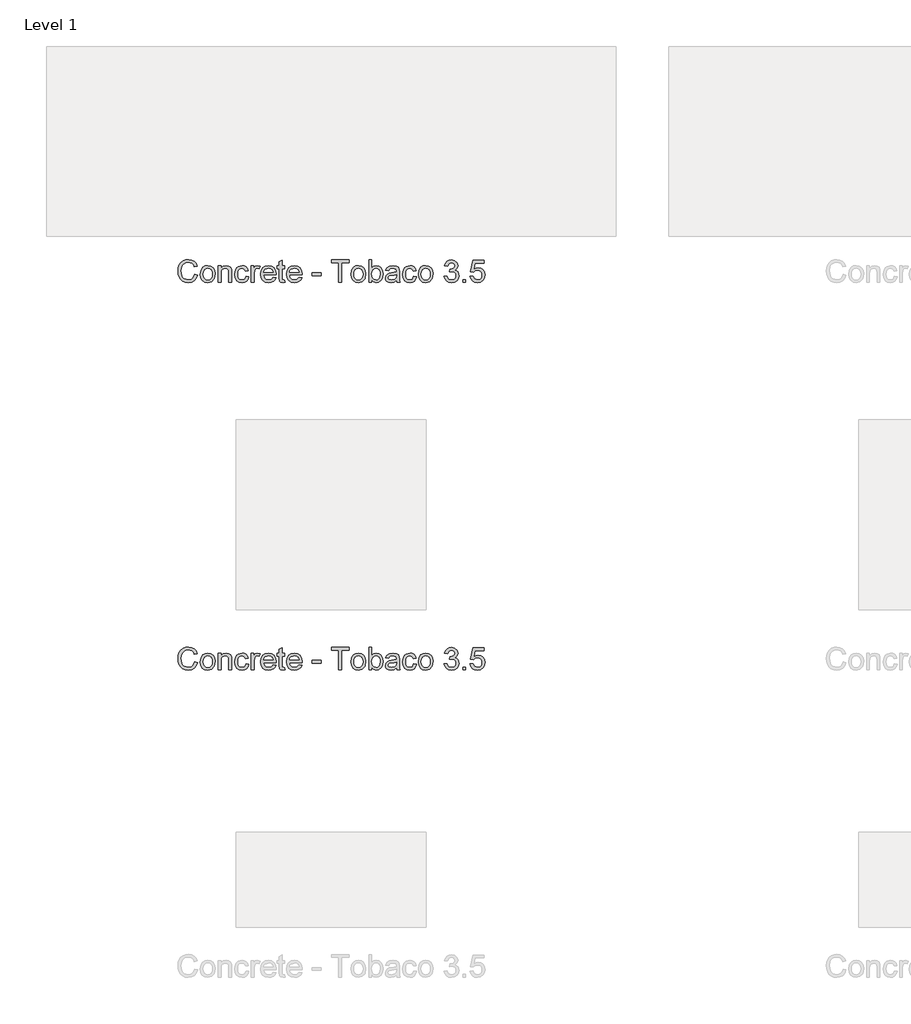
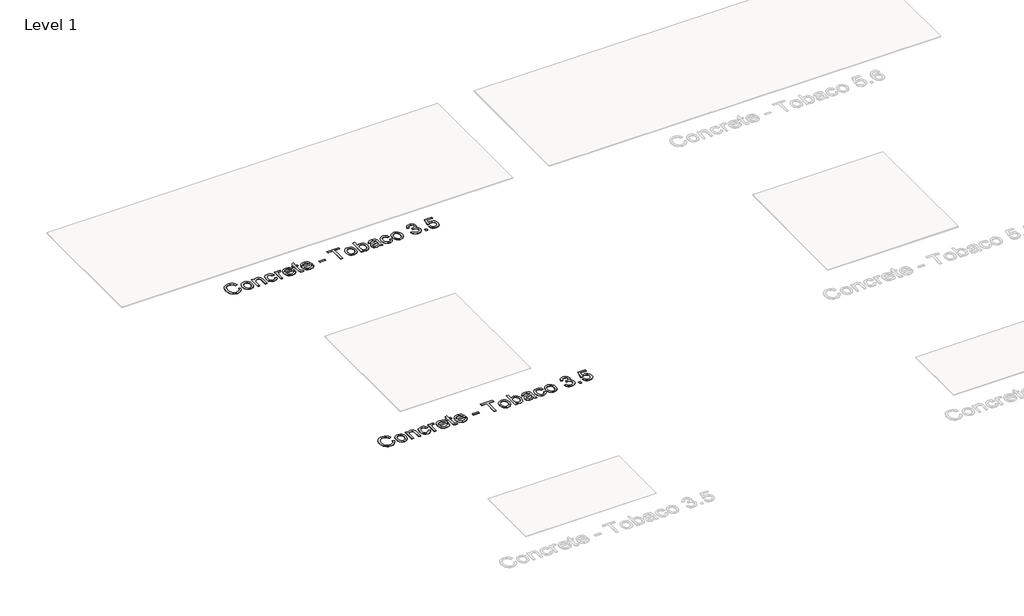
# One storey, part 53 of 80: 2 proxies.
"""IFC4 building model written with IfcOpenShell, lengths in millimetres."""

from ifc_helpers import new_model, si_unit, origin, origin_with_axes, place, context, project, spatial, polyline, outline, extrude, element, save

model = new_model("IFC4")

# Units and contexts
model_context = context("Model", 3, world=origin())
ifc_project = project(units=[si_unit("LENGTHUNIT", "METRE", prefix="MILLI")], contexts=[model_context])

# Site, building, storey
site = spatial("IfcSite", under=ifc_project)
building = spatial("IfcBuilding", under=site)
storey = spatial("IfcBuildingStorey", under=building, Name="Level 1", Elevation=0.0)

# Proxies
placement = place(None, origin())
element("IfcBuildingElementProxy", 1, Name="24\" Arial", ObjectType="24\" Arial", at=placement, inside=storey, context=model_context, shape_type="SweptSolid", body=[
    extrude(outline(polyline([(-11124.6145694, 10790.728562), (-11109.8453387, 10786.9208697), (-11116.6602425, 10769.7105332), (-11127.3549541, 10757.1372159), (-11141.403031, 10749.4461101), (-11158.278031, 10746.8824082), (-11175.4090406, 10748.822312), (-11189.0136079, 10754.6420236), (-11199.4414925, 10764.1396197), (-11207.0424541, 10777.1131774), (-11211.6830791, 10792.3655813), (-11213.2299541, 10808.6997159), (-11211.481156, 10825.9280813), (-11206.2347617, 10840.8054851), (-11197.7648098, 10852.8595717), (-11186.3453387, 10861.6179851), (-11172.8020694, 10866.9509178), (-11157.9607233, 10868.728562), (-11141.7672137, 10866.4280813), (-11128.3789925, 10859.526639), (-11118.2143291, 10848.4497159), (-11111.6914925, 10833.6227928), (-11126.4607233, 10830.103562), (-11131.5809156, 10840.8739947), (-11138.5761079, 10848.2622159), (-11147.5328387, 10852.5350524), (-11158.5376464, 10853.9593313), (-11171.2227425, 10852.3800044), (-11181.6434156, 10847.6420236), (-11189.5508675, 10840.2429851), (-11194.6963002, 10830.6804851), (-11198.4607233, 10808.728562), (-11194.0039925, 10783.2862544), (-11188.3068771, 10773.7850524), (-11180.1289925, 10767.0314467), (-11159.7491848, 10761.651639), (-11147.4210598, 10763.4833697), (-11137.1482233, 10768.978562), (-11129.3922137, 10778.0795236), (-11124.6145694, 10790.728562)])), origin_with_axes(), (0.0, 0.0, 1.0), 2.0),
    extrude(outline(polyline([(-11095.0761079, 10792.1131774), (-11091.8813964, 10813.0338505), (-11082.2972617, 10827.7381774), (-11070.4559156, 10834.9425044), (-11056.278031, 10837.3439467), (-11040.762406, 10834.4196678), (-11028.3693771, 10825.6468313), (-11020.2455791, 10811.7177447), (-11017.5376464, 10793.3247159), (-11022.3261079, 10767.0458697), (-11036.2732233, 10752.1756774), (-11056.278031, 10746.8824082), (-11071.981156, 10749.7958697), (-11084.3597617, 10758.5362544), (-11092.3970214, 10772.7574082), (-11095.0761079, 10792.1131774)]), holes=[polyline([(-11080.3068771, 10792.1420236), (-11078.5977425, 10778.775437), (-11073.4703387, 10769.2526005), (-11065.7539925, 10763.5518794), (-11056.278031, 10761.651639), (-11046.8453387, 10763.5626967), (-11039.1434156, 10769.2958697), (-11034.0160117, 10778.9449082), (-11032.3068771, 10792.603562), (-11034.0268291, 10805.5807255), (-11039.1866848, 10814.9737544), (-11046.8994252, 10820.6744755), (-11056.278031, 10822.5747159), (-11065.7539925, 10820.681687), (-11073.4703387, 10815.0026005), (-11078.5977425, 10805.5013986), (-11080.3068771, 10792.1420236)])]), origin_with_axes(), (0.0, 0.0, 1.0), 2.0),
    extrude(outline(polyline([(-11000.9222617, 10748.728562), (-11000.9222617, 10835.4977928), (-10986.153031, 10835.4977928), (-10986.153031, 10823.3824082), (-10974.8597617, 10833.853562), (-10959.4414925, 10837.3439467), (-10945.4943771, 10834.5314467), (-10935.9751464, 10827.1468313), (-10931.5472617, 10816.2862544), (-10930.7684156, 10802.0074082), (-10930.7684156, 10748.728562), (-10945.5376464, 10748.728562), (-10945.5376464, 10800.0170236), (-10947.2395694, 10813.0843313), (-10953.2539925, 10819.9929851), (-10963.3934156, 10822.5747159), (-10979.4174541, 10816.776639), (-10984.4691367, 10808.3751967), (-10986.153031, 10794.7670236), (-10986.153031, 10748.728562), (-11000.9222617, 10748.728562)])), origin_with_axes(), (0.0, 0.0, 1.0), 2.0),
    extrude(outline(polyline([(-10855.0761079, 10780.1131774), (-10840.3068771, 10778.2670236), (-10844.4246656, 10765.1312063), (-10852.1626464, 10755.2045236), (-10862.7924541, 10748.962937), (-10875.5857233, 10746.8824082), (-10891.2960598, 10749.7850524), (-10903.5809156, 10758.4929851), (-10911.5100021, 10772.6239947), (-10914.153031, 10791.7958697), (-10909.6386079, 10816.3295236), (-10903.9414925, 10825.5278409), (-10895.8789925, 10832.0939467), (-10875.7876464, 10837.3439467), (-10863.3080791, 10835.541062), (-10853.3309156, 10830.1324082), (-10846.1734637, 10821.4064467), (-10842.153031, 10809.651639), (-10856.9222617, 10807.8054851), (-10863.7732233, 10818.8679851), (-10875.6722617, 10822.5747159), (-10885.2167329, 10820.7501967), (-10892.7924541, 10815.276639), (-10897.7359637, 10805.8583697), (-10899.3838002, 10792.1997159), (-10897.7720214, 10778.3571678), (-10892.9366848, 10768.9064467), (-10885.4979829, 10763.4653409), (-10876.0761079, 10761.651639), (-10862.1578387, 10766.1804851), (-10855.0761079, 10780.1131774)])), origin_with_axes(), (0.0, 0.0, 1.0), 2.0),
    extrude(outline(polyline([(-10827.3838002, 10748.728562), (-10827.3838002, 10835.4977928), (-10814.4607233, 10835.4977928), (-10814.4607233, 10822.6612544), (-10805.2876464, 10834.4881774), (-10796.0568771, 10837.3439467), (-10781.2299541, 10832.7862544), (-10786.1626464, 10819.5458697), (-10796.5472617, 10822.5747159), (-10804.8982233, 10819.6612544), (-10810.2203387, 10811.5843313), (-10812.6145694, 10794.3343313), (-10812.6145694, 10748.728562), (-10827.3838002, 10748.728562)])), origin_with_axes(), (0.0, 0.0, 1.0), 2.0),
    extrude(outline(polyline([(-10711.2491848, 10774.5747159), (-10696.7684156, 10772.728562), (-10701.9859637, 10761.8175044), (-10710.3116848, 10753.6612544), (-10721.5580791, 10748.5771197), (-10735.5376464, 10746.8824082), (-10752.8669733, 10749.806687), (-10766.2011079, 10758.5795236), (-10774.7035117, 10772.6312063), (-10777.5376464, 10791.3920236), (-10774.6746656, 10810.7838505), (-10766.0857233, 10825.2862544), (-10752.9318771, 10834.3295236), (-10736.3741848, 10837.3439467), (-10720.3321175, 10834.3367351), (-10707.5136079, 10825.3151005), (-10699.1085598, 10810.8415428), (-10696.3068771, 10791.478562), (-10696.3934156, 10787.4977928), (-10762.7684156, 10787.4977928), (-10760.2119252, 10776.4425044), (-10754.2732233, 10768.3151005), (-10745.7023098, 10763.3175044), (-10735.2491848, 10761.651639), (-10720.7684156, 10764.7381774), (-10711.2491848, 10774.5747159)]), holes=[polyline([(-10762.7684156, 10802.2670236), (-10711.0761079, 10802.2670236), (-10716.9895694, 10815.651639), (-10725.6001464, 10820.8439467), (-10736.4318771, 10822.5747159), (-10754.6193771, 10817.0506774), (-10760.3417329, 10810.5927447), (-10762.7684156, 10802.2670236)])]), origin_with_axes(), (0.0, 0.0, 1.0), 2.0),
    extrude(outline(polyline([(-10650.153031, 10761.0458697), (-10648.3068771, 10748.2958697), (-10659.3549541, 10746.8824082), (-10671.7299541, 10749.3343313), (-10677.903031, 10755.7670236), (-10679.6914925, 10772.526639), (-10679.6914925, 10820.728562), (-10690.7684156, 10820.728562), (-10690.7684156, 10835.4977928), (-10679.6914925, 10835.4977928), (-10679.6914925, 10856.5843313), (-10664.9222617, 10865.2670236), (-10664.9222617, 10835.4977928), (-10650.153031, 10835.4977928), (-10650.153031, 10820.728562), (-10664.9222617, 10820.728562), (-10664.9222617, 10772.9593313), (-10664.1434156, 10765.3439467), (-10661.6193771, 10762.6468313), (-10656.5857233, 10761.651639), (-10650.153031, 10761.0458697)])), origin_with_axes(), (0.0, 0.0, 1.0), 2.0),
    extrude(outline(polyline([(-10574.6338002, 10774.5747159), (-10560.153031, 10772.728562), (-10565.3705791, 10761.8175044), (-10573.6963002, 10753.6612544), (-10584.9426944, 10748.5771197), (-10598.9222617, 10746.8824082), (-10616.2515887, 10749.806687), (-10629.5857233, 10758.5795236), (-10638.0881271, 10772.6312063), (-10640.9222617, 10791.3920236), (-10638.059281, 10810.7838505), (-10629.4703387, 10825.2862544), (-10616.3164925, 10834.3295236), (-10599.7588002, 10837.3439467), (-10583.7167329, 10834.3367351), (-10570.8982233, 10825.3151005), (-10562.4931752, 10810.8415428), (-10559.6914925, 10791.478562), (-10559.778031, 10787.4977928), (-10626.153031, 10787.4977928), (-10623.5965406, 10776.4425044), (-10617.6578387, 10768.3151005), (-10609.0869252, 10763.3175044), (-10598.6338002, 10761.651639), (-10584.153031, 10764.7381774), (-10574.6338002, 10774.5747159)]), holes=[polyline([(-10626.153031, 10802.2670236), (-10574.4607233, 10802.2670236), (-10580.3741848, 10815.651639), (-10588.9847617, 10820.8439467), (-10599.8164925, 10822.5747159), (-10618.0039925, 10817.0506774), (-10623.7263483, 10810.5927447), (-10626.153031, 10802.2670236)])]), origin_with_axes(), (0.0, 0.0, 1.0), 2.0),
    extrude(outline(polyline([(-10506.153031, 10783.8054851), (-10506.153031, 10798.5747159), (-10459.9991848, 10798.5747159), (-10459.9991848, 10783.8054851), (-10506.153031, 10783.8054851)])), origin_with_axes(), (0.0, 0.0, 1.0), 2.0),
    extrude(outline(polyline([(-10365.8453387, 10748.728562), (-10365.8453387, 10852.1131774), (-10404.6145694, 10852.1131774), (-10404.6145694, 10866.8824082), (-10312.3068771, 10866.8824082), (-10312.3068771, 10852.1131774), (-10351.0761079, 10852.1131774), (-10351.0761079, 10748.728562), (-10365.8453387, 10748.728562)])), origin_with_axes(), (0.0, 0.0, 1.0), 2.0),
    extrude(outline(polyline([(-10301.2299541, 10792.1131774), (-10298.0352425, 10813.0338505), (-10288.4511079, 10827.7381774), (-10276.6097617, 10834.9425044), (-10262.4318771, 10837.3439467), (-10246.9162521, 10834.4196678), (-10234.5232233, 10825.6468313), (-10226.3994252, 10811.7177447), (-10223.6914925, 10793.3247159), (-10228.4799541, 10767.0458697), (-10242.4270694, 10752.1756774), (-10262.4318771, 10746.8824082), (-10278.1350021, 10749.7958697), (-10290.5136079, 10758.5362544), (-10298.5508675, 10772.7574082), (-10301.2299541, 10792.1131774)]), holes=[polyline([(-10286.4607233, 10792.1420236), (-10284.7515887, 10778.775437), (-10279.6241848, 10769.2526005), (-10271.9078387, 10763.5518794), (-10262.4318771, 10761.651639), (-10252.9991848, 10763.5626967), (-10245.2972617, 10769.2958697), (-10240.1698579, 10778.9449082), (-10238.4607233, 10792.603562), (-10240.1806752, 10805.5807255), (-10245.340531, 10814.9737544), (-10253.0532714, 10820.6744755), (-10262.4318771, 10822.5747159), (-10271.9078387, 10820.681687), (-10279.6241848, 10815.0026005), (-10284.7515887, 10805.5013986), (-10286.4607233, 10792.1420236)])]), origin_with_axes(), (0.0, 0.0, 1.0), 2.0),
    extrude(outline(polyline([(-10192.3068771, 10748.728562), (-10207.0761079, 10748.728562), (-10207.0761079, 10866.8824082), (-10192.3068771, 10866.8824082), (-10192.3068771, 10823.0651005), (-10181.965531, 10833.7742351), (-10169.1145694, 10837.3439467), (-10154.3164925, 10834.1276005), (-10142.8357233, 10825.0843313), (-10135.7828387, 10811.0218313), (-10133.2299541, 10793.4112544), (-10135.8729829, 10773.6949082), (-10143.8020694, 10759.026639), (-10155.4378867, 10749.9184659), (-10169.2011079, 10746.8824082), (-10182.3333194, 10750.7982736), (-10192.3068771, 10762.5458697), (-10192.3068771, 10748.728562)]), holes=[polyline([(-10192.3068771, 10792.7189467), (-10188.2684156, 10772.0651005), (-10180.5304348, 10764.2550044), (-10170.4703387, 10761.651639), (-10161.9463002, 10763.5699082), (-10154.6626464, 10769.3247159), (-10149.6650502, 10778.8800044), (-10147.9991848, 10792.1997159), (-10149.5965406, 10805.714139), (-10154.3886079, 10815.1612544), (-10161.4450983, 10820.7213505), (-10169.8357233, 10822.5747159), (-10178.3597617, 10820.6564467), (-10185.6434156, 10814.901639), (-10190.6410117, 10805.5194274), (-10192.3068771, 10792.7189467)])]), origin_with_axes(), (0.0, 0.0, 1.0), 2.0),
    extrude(outline(polyline([(-10061.2299541, 10759.8054851), (-10075.5520694, 10749.7958697), (-10091.3741848, 10746.8824082), (-10103.7167329, 10748.634812), (-10112.8213002, 10753.8920236), (-10118.4354829, 10761.8751967), (-10120.3068771, 10771.8054851), (-10117.4799541, 10783.4881774), (-10110.0520694, 10791.9689467), (-10099.7107233, 10796.8151005), (-10086.9318771, 10799.0362544), (-10061.3164925, 10804.1131774), (-10061.2299541, 10807.401639), (-10065.2972617, 10818.3054851), (-10081.6241848, 10822.5747159), (-10096.5664925, 10819.7333697), (-10103.6914925, 10809.651639), (-10118.4607233, 10811.4977928), (-10112.0713002, 10825.9208697), (-10099.2059156, 10834.3727928), (-10079.7203387, 10837.3439467), (-10061.8213002, 10834.7189467), (-10051.7107233, 10828.1276005), (-10047.1818771, 10818.103562), (-10046.4607233, 10805.1804851), (-10046.4607233, 10786.8054851), (-10045.7107233, 10761.1468313), (-10042.7684156, 10748.728562), (-10057.5376464, 10748.728562), (-10061.2299541, 10759.8054851)]), holes=[polyline([(-10061.2299541, 10789.3439467), (-10085.0568771, 10784.8151005), (-10097.7636079, 10782.4208697), (-10103.5184156, 10778.526639), (-10105.5376464, 10772.8439467), (-10101.1386079, 10764.853562), (-10088.2299541, 10761.651639), (-10073.2876464, 10765.1852928), (-10063.653031, 10773.7381774), (-10061.3164925, 10785.1612544), (-10061.2299541, 10789.3439467)])]), origin_with_axes(), (0.0, 0.0, 1.0), 2.0),
    extrude(outline(polyline([(-9970.7684156, 10780.1131774), (-9955.9991848, 10778.2670236), (-9960.1169733, 10765.1312063), (-9967.8549541, 10755.2045236), (-9978.4847617, 10748.962937), (-9991.278031, 10746.8824082), (-10006.9883675, 10749.7850524), (-10019.2732233, 10758.4929851), (-10027.2023098, 10772.6239947), (-10029.8453387, 10791.7958697), (-10025.3309156, 10816.3295236), (-10019.6338002, 10825.5278409), (-10011.5713002, 10832.0939467), (-9991.4799541, 10837.3439467), (-9979.0003867, 10835.541062), (-9969.0232233, 10830.1324082), (-9961.8657714, 10821.4064467), (-9957.8453387, 10809.651639), (-9972.6145694, 10807.8054851), (-9979.465531, 10818.8679851), (-9991.3645694, 10822.5747159), (-10000.9090406, 10820.7501967), (-10008.4847617, 10815.276639), (-10013.4282714, 10805.8583697), (-10015.0761079, 10792.1997159), (-10013.4643291, 10778.3571678), (-10008.6289925, 10768.9064467), (-10001.1902906, 10763.4653409), (-9991.7684156, 10761.651639), (-9977.8501464, 10766.1804851), (-9970.7684156, 10780.1131774)])), origin_with_axes(), (0.0, 0.0, 1.0), 2.0),
    extrude(outline(polyline([(-9946.7684156, 10792.1131774), (-9943.5737041, 10813.0338505), (-9933.9895694, 10827.7381774), (-9922.1482233, 10834.9425044), (-9907.9703387, 10837.3439467), (-9892.4547137, 10834.4196678), (-9880.0616848, 10825.6468313), (-9871.9378867, 10811.7177447), (-9869.2299541, 10793.3247159), (-9874.0184156, 10767.0458697), (-9887.965531, 10752.1756774), (-9907.9703387, 10746.8824082), (-9923.6734637, 10749.7958697), (-9936.0520694, 10758.5362544), (-9944.0893291, 10772.7574082), (-9946.7684156, 10792.1131774)]), holes=[polyline([(-9931.9991848, 10792.1420236), (-9930.2900502, 10778.775437), (-9925.1626464, 10769.2526005), (-9917.4463002, 10763.5518794), (-9907.9703387, 10761.651639), (-9898.5376464, 10763.5626967), (-9890.8357233, 10769.2958697), (-9885.7083194, 10778.9449082), (-9883.9991848, 10792.603562), (-9885.7191367, 10805.5807255), (-9890.8789925, 10814.9737544), (-9898.5917329, 10820.6744755), (-9907.9703387, 10822.5747159), (-9917.4463002, 10820.681687), (-9925.1626464, 10815.0026005), (-9930.2900502, 10805.5013986), (-9931.9991848, 10792.1420236)])]), origin_with_axes(), (0.0, 0.0, 1.0), 2.0),
    extrude(outline(polyline([(-9810.153031, 10780.1131774), (-9795.3838002, 10781.9593313), (-9787.2347617, 10766.4112544), (-9771.9895694, 10761.651639), (-9761.8645694, 10763.2886582), (-9754.0472617, 10768.1997159), (-9749.0496656, 10775.526639), (-9747.3838002, 10784.4112544), (-9749.0352425, 10792.8451486), (-9753.9895694, 10799.6852928), (-9761.4895694, 10804.2177447), (-9770.778031, 10805.728562), (-9781.1338002, 10804.1131774), (-9779.4895694, 10818.8824082), (-9777.1241848, 10818.7093313), (-9760.3645694, 10822.9497159), (-9754.7828387, 10828.3295236), (-9752.9222617, 10835.9881774), (-9758.3164925, 10847.541062), (-9772.2203387, 10852.1131774), (-9786.2972617, 10847.4977928), (-9793.5376464, 10833.651639), (-9808.3068771, 10835.4977928), (-9803.9583194, 10848.759812), (-9796.2203387, 10858.6612544), (-9785.6338002, 10864.8271197), (-9772.7395694, 10866.8824082), (-9754.9270694, 10862.8295236), (-9742.465531, 10851.7526005), (-9738.153031, 10836.853562), (-9742.2491848, 10823.2381774), (-9754.3645694, 10813.4593313), (-9745.1193771, 10809.7237544), (-9738.2684156, 10803.3631774), (-9734.028031, 10794.7237544), (-9732.6145694, 10784.151639), (-9735.4414925, 10769.7574082), (-9743.9222617, 10757.728562), (-9756.7227425, 10749.5939467), (-9772.5088002, 10746.8824082), (-9786.7876464, 10749.197312), (-9798.4126464, 10756.1420236), (-9806.496781, 10766.7646197), (-9810.153031, 10780.1131774)])), origin_with_axes(), (0.0, 0.0, 1.0), 2.0),
    extrude(outline(polyline([(-9712.3068771, 10748.728562), (-9712.3068771, 10763.4977928), (-9697.5376464, 10763.4977928), (-9697.5376464, 10748.728562), (-9712.3068771, 10748.728562)])), origin_with_axes(), (0.0, 0.0, 1.0), 2.0),
    extrude(outline(polyline([(-9673.5376464, 10780.1131774), (-9658.7684156, 10781.9593313), (-9651.3261079, 10766.7429851), (-9635.8934156, 10761.651639), (-9625.3068771, 10763.4220717), (-9617.3741848, 10768.7333697), (-9612.4198579, 10776.9725524), (-9610.7684156, 10787.526639), (-9612.3152906, 10797.464139), (-9616.9559156, 10805.0651005), (-9624.7263483, 10809.8896197), (-9635.6626464, 10811.4977928), (-9648.6289925, 10808.9304851), (-9656.9222617, 10802.2670236), (-9671.6914925, 10804.1131774), (-9658.7684156, 10865.0362544), (-9601.5376464, 10865.0362544), (-9601.5376464, 10850.2670236), (-9646.8261079, 10850.2670236), (-9653.1434156, 10817.728562), (-9642.5929348, 10824.1324082), (-9631.5376464, 10826.2670236), (-9617.7383675, 10823.620389), (-9606.2828387, 10815.6804851), (-9598.5700983, 10803.5795236), (-9595.9991848, 10788.4497159), (-9598.3140887, 10773.6804851), (-9605.2588002, 10761.0458697), (-9618.5568771, 10750.4232736), (-9635.9511079, 10746.8824082), (-9650.4571175, 10749.1576486), (-9662.0136079, 10755.9833697), (-9669.9354829, 10766.5663024), (-9673.5376464, 10780.1131774)])), origin_with_axes(), (0.0, 0.0, 1.0), 2.0),
])
element("IfcBuildingElementProxy", 2, Name="24\" Arial", ObjectType="24\" Arial", at=placement, inside=storey, context=model_context, shape_type="SweptSolid", body=[
    extrude(outline(polyline([(-11124.6145694, 8750.084666), (-11109.8453387, 8746.2769737), (-11116.6602425, 8729.0666372), (-11127.3549541, 8716.4933199), (-11141.403031, 8708.8022141), (-11158.278031, 8706.2385122), (-11175.4090406, 8708.178416), (-11189.0136079, 8713.9981275), (-11199.4414925, 8723.4957237), (-11207.0424541, 8736.4692814), (-11211.6830791, 8751.7216852), (-11213.2299541, 8768.0558199), (-11211.481156, 8785.2841852), (-11206.2347617, 8800.1615891), (-11197.7648098, 8812.2156756), (-11186.3453387, 8820.9740891), (-11172.8020694, 8826.3070218), (-11157.9607233, 8828.084666), (-11141.7672137, 8825.7841852), (-11128.3789925, 8818.8827429), (-11118.2143291, 8807.8058199), (-11111.6914925, 8792.9788968), (-11126.4607233, 8789.459666), (-11131.5809156, 8800.2300987), (-11138.5761079, 8807.6183199), (-11147.5328387, 8811.8911564), (-11158.5376464, 8813.3154352), (-11171.2227425, 8811.7361083), (-11181.6434156, 8806.9981275), (-11189.5508675, 8799.5990891), (-11194.6963002, 8790.0365891), (-11198.4607233, 8768.084666), (-11194.0039925, 8742.6423583), (-11188.3068771, 8733.1411564), (-11180.1289925, 8726.3875506), (-11159.7491848, 8721.0077429), (-11147.4210598, 8722.8394737), (-11137.1482233, 8728.334666), (-11129.3922137, 8737.4356275), (-11124.6145694, 8750.084666)])), origin_with_axes(), (0.0, 0.0, 1.0), 2.0),
    extrude(outline(polyline([(-11095.0761079, 8751.4692814), (-11091.8813964, 8772.3899545), (-11082.2972617, 8787.0942814), (-11070.4559156, 8794.2986083), (-11056.278031, 8796.7000506), (-11040.762406, 8793.7757718), (-11028.3693771, 8785.0029352), (-11020.2455791, 8771.0738487), (-11017.5376464, 8752.6808199), (-11022.3261079, 8726.4019737), (-11036.2732233, 8711.5317814), (-11056.278031, 8706.2385122), (-11071.981156, 8709.1519737), (-11084.3597617, 8717.8923583), (-11092.3970214, 8732.1135122), (-11095.0761079, 8751.4692814)]), holes=[polyline([(-11080.3068771, 8751.4981275), (-11078.5977425, 8738.131541), (-11073.4703387, 8728.6087045), (-11065.7539925, 8722.9079833), (-11056.278031, 8721.0077429), (-11046.8453387, 8722.9188006), (-11039.1434156, 8728.6519737), (-11034.0160117, 8738.3010122), (-11032.3068771, 8751.959666), (-11034.0268291, 8764.9368295), (-11039.1866848, 8774.3298583), (-11046.8994252, 8780.0305795), (-11056.278031, 8781.9308199), (-11065.7539925, 8780.037791), (-11073.4703387, 8774.3587045), (-11078.5977425, 8764.8575025), (-11080.3068771, 8751.4981275)])]), origin_with_axes(), (0.0, 0.0, 1.0), 2.0),
    extrude(outline(polyline([(-11000.9222617, 8708.084666), (-11000.9222617, 8794.8538968), (-10986.153031, 8794.8538968), (-10986.153031, 8782.7385122), (-10974.8597617, 8793.209666), (-10959.4414925, 8796.7000506), (-10945.4943771, 8793.8875506), (-10935.9751464, 8786.5029352), (-10931.5472617, 8775.6423583), (-10930.7684156, 8761.3635122), (-10930.7684156, 8708.084666), (-10945.5376464, 8708.084666), (-10945.5376464, 8759.3731275), (-10947.2395694, 8772.4404352), (-10953.2539925, 8779.3490891), (-10963.3934156, 8781.9308199), (-10979.4174541, 8776.1327429), (-10984.4691367, 8767.7313006), (-10986.153031, 8754.1231275), (-10986.153031, 8708.084666), (-11000.9222617, 8708.084666)])), origin_with_axes(), (0.0, 0.0, 1.0), 2.0),
    extrude(outline(polyline([(-10855.0761079, 8739.4692814), (-10840.3068771, 8737.6231275), (-10844.4246656, 8724.4873102), (-10852.1626464, 8714.5606275), (-10862.7924541, 8708.319041), (-10875.5857233, 8706.2385122), (-10891.2960598, 8709.1411564), (-10903.5809156, 8717.8490891), (-10911.5100021, 8731.9800987), (-10914.153031, 8751.1519737), (-10909.6386079, 8775.6856275), (-10903.9414925, 8784.8839449), (-10895.8789925, 8791.4500506), (-10875.7876464, 8796.7000506), (-10863.3080791, 8794.897166), (-10853.3309156, 8789.4885122), (-10846.1734637, 8780.7625506), (-10842.153031, 8769.0077429), (-10856.9222617, 8767.1615891), (-10863.7732233, 8778.2240891), (-10875.6722617, 8781.9308199), (-10885.2167329, 8780.1063006), (-10892.7924541, 8774.6327429), (-10897.7359637, 8765.2144737), (-10899.3838002, 8751.5558199), (-10897.7720214, 8737.7132718), (-10892.9366848, 8728.2625506), (-10885.4979829, 8722.8214449), (-10876.0761079, 8721.0077429), (-10862.1578387, 8725.5365891), (-10855.0761079, 8739.4692814)])), origin_with_axes(), (0.0, 0.0, 1.0), 2.0),
    extrude(outline(polyline([(-10827.3838002, 8708.084666), (-10827.3838002, 8794.8538968), (-10814.4607233, 8794.8538968), (-10814.4607233, 8782.0173583), (-10805.2876464, 8793.8442814), (-10796.0568771, 8796.7000506), (-10781.2299541, 8792.1423583), (-10786.1626464, 8778.9019737), (-10796.5472617, 8781.9308199), (-10804.8982233, 8779.0173583), (-10810.2203387, 8770.9404352), (-10812.6145694, 8753.6904352), (-10812.6145694, 8708.084666), (-10827.3838002, 8708.084666)])), origin_with_axes(), (0.0, 0.0, 1.0), 2.0),
    extrude(outline(polyline([(-10711.2491848, 8733.9308199), (-10696.7684156, 8732.084666), (-10701.9859637, 8721.1736083), (-10710.3116848, 8713.0173583), (-10721.5580791, 8707.9332237), (-10735.5376464, 8706.2385122), (-10752.8669733, 8709.162791), (-10766.2011079, 8717.9356275), (-10774.7035117, 8731.9873102), (-10777.5376464, 8750.7481275), (-10774.6746656, 8770.1399545), (-10766.0857233, 8784.6423583), (-10752.9318771, 8793.6856275), (-10736.3741848, 8796.7000506), (-10720.3321175, 8793.6928391), (-10707.5136079, 8784.6712045), (-10699.1085598, 8770.1976468), (-10696.3068771, 8750.834666), (-10696.3934156, 8746.8538968), (-10762.7684156, 8746.8538968), (-10760.2119252, 8735.7986083), (-10754.2732233, 8727.6712045), (-10745.7023098, 8722.6736083), (-10735.2491848, 8721.0077429), (-10720.7684156, 8724.0942814), (-10711.2491848, 8733.9308199)]), holes=[polyline([(-10762.7684156, 8761.6231275), (-10711.0761079, 8761.6231275), (-10716.9895694, 8775.0077429), (-10725.6001464, 8780.2000506), (-10736.4318771, 8781.9308199), (-10754.6193771, 8776.4067814), (-10760.3417329, 8769.9488487), (-10762.7684156, 8761.6231275)])]), origin_with_axes(), (0.0, 0.0, 1.0), 2.0),
    extrude(outline(polyline([(-10650.153031, 8720.4019737), (-10648.3068771, 8707.6519737), (-10659.3549541, 8706.2385122), (-10671.7299541, 8708.6904352), (-10677.903031, 8715.1231275), (-10679.6914925, 8731.8827429), (-10679.6914925, 8780.084666), (-10690.7684156, 8780.084666), (-10690.7684156, 8794.8538968), (-10679.6914925, 8794.8538968), (-10679.6914925, 8815.9404352), (-10664.9222617, 8824.6231275), (-10664.9222617, 8794.8538968), (-10650.153031, 8794.8538968), (-10650.153031, 8780.084666), (-10664.9222617, 8780.084666), (-10664.9222617, 8732.3154352), (-10664.1434156, 8724.7000506), (-10661.6193771, 8722.0029352), (-10656.5857233, 8721.0077429), (-10650.153031, 8720.4019737)])), origin_with_axes(), (0.0, 0.0, 1.0), 2.0),
    extrude(outline(polyline([(-10574.6338002, 8733.9308199), (-10560.153031, 8732.084666), (-10565.3705791, 8721.1736083), (-10573.6963002, 8713.0173583), (-10584.9426944, 8707.9332237), (-10598.9222617, 8706.2385122), (-10616.2515887, 8709.162791), (-10629.5857233, 8717.9356275), (-10638.0881271, 8731.9873102), (-10640.9222617, 8750.7481275), (-10638.059281, 8770.1399545), (-10629.4703387, 8784.6423583), (-10616.3164925, 8793.6856275), (-10599.7588002, 8796.7000506), (-10583.7167329, 8793.6928391), (-10570.8982233, 8784.6712045), (-10562.4931752, 8770.1976468), (-10559.6914925, 8750.834666), (-10559.778031, 8746.8538968), (-10626.153031, 8746.8538968), (-10623.5965406, 8735.7986083), (-10617.6578387, 8727.6712045), (-10609.0869252, 8722.6736083), (-10598.6338002, 8721.0077429), (-10584.153031, 8724.0942814), (-10574.6338002, 8733.9308199)]), holes=[polyline([(-10626.153031, 8761.6231275), (-10574.4607233, 8761.6231275), (-10580.3741848, 8775.0077429), (-10588.9847617, 8780.2000506), (-10599.8164925, 8781.9308199), (-10618.0039925, 8776.4067814), (-10623.7263483, 8769.9488487), (-10626.153031, 8761.6231275)])]), origin_with_axes(), (0.0, 0.0, 1.0), 2.0),
    extrude(outline(polyline([(-10506.153031, 8743.1615891), (-10506.153031, 8757.9308199), (-10459.9991848, 8757.9308199), (-10459.9991848, 8743.1615891), (-10506.153031, 8743.1615891)])), origin_with_axes(), (0.0, 0.0, 1.0), 2.0),
    extrude(outline(polyline([(-10365.8453387, 8708.084666), (-10365.8453387, 8811.4692814), (-10404.6145694, 8811.4692814), (-10404.6145694, 8826.2385122), (-10312.3068771, 8826.2385122), (-10312.3068771, 8811.4692814), (-10351.0761079, 8811.4692814), (-10351.0761079, 8708.084666), (-10365.8453387, 8708.084666)])), origin_with_axes(), (0.0, 0.0, 1.0), 2.0),
    extrude(outline(polyline([(-10301.2299541, 8751.4692814), (-10298.0352425, 8772.3899545), (-10288.4511079, 8787.0942814), (-10276.6097617, 8794.2986083), (-10262.4318771, 8796.7000506), (-10246.9162521, 8793.7757718), (-10234.5232233, 8785.0029352), (-10226.3994252, 8771.0738487), (-10223.6914925, 8752.6808199), (-10228.4799541, 8726.4019737), (-10242.4270694, 8711.5317814), (-10262.4318771, 8706.2385122), (-10278.1350021, 8709.1519737), (-10290.5136079, 8717.8923583), (-10298.5508675, 8732.1135122), (-10301.2299541, 8751.4692814)]), holes=[polyline([(-10286.4607233, 8751.4981275), (-10284.7515887, 8738.131541), (-10279.6241848, 8728.6087045), (-10271.9078387, 8722.9079833), (-10262.4318771, 8721.0077429), (-10252.9991848, 8722.9188006), (-10245.2972617, 8728.6519737), (-10240.1698579, 8738.3010122), (-10238.4607233, 8751.959666), (-10240.1806752, 8764.9368295), (-10245.340531, 8774.3298583), (-10253.0532714, 8780.0305795), (-10262.4318771, 8781.9308199), (-10271.9078387, 8780.037791), (-10279.6241848, 8774.3587045), (-10284.7515887, 8764.8575025), (-10286.4607233, 8751.4981275)])]), origin_with_axes(), (0.0, 0.0, 1.0), 2.0),
    extrude(outline(polyline([(-10192.3068771, 8708.084666), (-10207.0761079, 8708.084666), (-10207.0761079, 8826.2385122), (-10192.3068771, 8826.2385122), (-10192.3068771, 8782.4212045), (-10181.965531, 8793.1303391), (-10169.1145694, 8796.7000506), (-10154.3164925, 8793.4837045), (-10142.8357233, 8784.4404352), (-10135.7828387, 8770.3779352), (-10133.2299541, 8752.7673583), (-10135.8729829, 8733.0510122), (-10143.8020694, 8718.3827429), (-10155.4378867, 8709.2745699), (-10169.2011079, 8706.2385122), (-10182.3333194, 8710.1543775), (-10192.3068771, 8721.9019737), (-10192.3068771, 8708.084666)]), holes=[polyline([(-10192.3068771, 8752.0750506), (-10188.2684156, 8731.4212045), (-10180.5304348, 8723.6111083), (-10170.4703387, 8721.0077429), (-10161.9463002, 8722.9260122), (-10154.6626464, 8728.6808199), (-10149.6650502, 8738.2361083), (-10147.9991848, 8751.5558199), (-10149.5965406, 8765.0702429), (-10154.3886079, 8774.5173583), (-10161.4450983, 8780.0774545), (-10169.8357233, 8781.9308199), (-10178.3597617, 8780.0125506), (-10185.6434156, 8774.2577429), (-10190.6410117, 8764.8755314), (-10192.3068771, 8752.0750506)])]), origin_with_axes(), (0.0, 0.0, 1.0), 2.0),
    extrude(outline(polyline([(-10061.2299541, 8719.1615891), (-10075.5520694, 8709.1519737), (-10091.3741848, 8706.2385122), (-10103.7167329, 8707.990916), (-10112.8213002, 8713.2481275), (-10118.4354829, 8721.2313006), (-10120.3068771, 8731.1615891), (-10117.4799541, 8742.8442814), (-10110.0520694, 8751.3250506), (-10099.7107233, 8756.1712045), (-10086.9318771, 8758.3923583), (-10061.3164925, 8763.4692814), (-10061.2299541, 8766.7577429), (-10065.2972617, 8777.6615891), (-10081.6241848, 8781.9308199), (-10096.5664925, 8779.0894737), (-10103.6914925, 8769.0077429), (-10118.4607233, 8770.8538968), (-10112.0713002, 8785.2769737), (-10099.2059156, 8793.7288968), (-10079.7203387, 8796.7000506), (-10061.8213002, 8794.0750506), (-10051.7107233, 8787.4837045), (-10047.1818771, 8777.459666), (-10046.4607233, 8764.5365891), (-10046.4607233, 8746.1615891), (-10045.7107233, 8720.5029352), (-10042.7684156, 8708.084666), (-10057.5376464, 8708.084666), (-10061.2299541, 8719.1615891)]), holes=[polyline([(-10061.2299541, 8748.7000506), (-10085.0568771, 8744.1712045), (-10097.7636079, 8741.7769737), (-10103.5184156, 8737.8827429), (-10105.5376464, 8732.2000506), (-10101.1386079, 8724.209666), (-10088.2299541, 8721.0077429), (-10073.2876464, 8724.5413968), (-10063.653031, 8733.0942814), (-10061.3164925, 8744.5173583), (-10061.2299541, 8748.7000506)])]), origin_with_axes(), (0.0, 0.0, 1.0), 2.0),
    extrude(outline(polyline([(-9970.7684156, 8739.4692814), (-9955.9991848, 8737.6231275), (-9960.1169733, 8724.4873102), (-9967.8549541, 8714.5606275), (-9978.4847617, 8708.319041), (-9991.278031, 8706.2385122), (-10006.9883675, 8709.1411564), (-10019.2732233, 8717.8490891), (-10027.2023098, 8731.9800987), (-10029.8453387, 8751.1519737), (-10025.3309156, 8775.6856275), (-10019.6338002, 8784.8839449), (-10011.5713002, 8791.4500506), (-9991.4799541, 8796.7000506), (-9979.0003867, 8794.897166), (-9969.0232233, 8789.4885122), (-9961.8657714, 8780.7625506), (-9957.8453387, 8769.0077429), (-9972.6145694, 8767.1615891), (-9979.465531, 8778.2240891), (-9991.3645694, 8781.9308199), (-10000.9090406, 8780.1063006), (-10008.4847617, 8774.6327429), (-10013.4282714, 8765.2144737), (-10015.0761079, 8751.5558199), (-10013.4643291, 8737.7132718), (-10008.6289925, 8728.2625506), (-10001.1902906, 8722.8214449), (-9991.7684156, 8721.0077429), (-9977.8501464, 8725.5365891), (-9970.7684156, 8739.4692814)])), origin_with_axes(), (0.0, 0.0, 1.0), 2.0),
    extrude(outline(polyline([(-9946.7684156, 8751.4692814), (-9943.5737041, 8772.3899545), (-9933.9895694, 8787.0942814), (-9922.1482233, 8794.2986083), (-9907.9703387, 8796.7000506), (-9892.4547137, 8793.7757718), (-9880.0616848, 8785.0029352), (-9871.9378867, 8771.0738487), (-9869.2299541, 8752.6808199), (-9874.0184156, 8726.4019737), (-9887.965531, 8711.5317814), (-9907.9703387, 8706.2385122), (-9923.6734637, 8709.1519737), (-9936.0520694, 8717.8923583), (-9944.0893291, 8732.1135122), (-9946.7684156, 8751.4692814)]), holes=[polyline([(-9931.9991848, 8751.4981275), (-9930.2900502, 8738.131541), (-9925.1626464, 8728.6087045), (-9917.4463002, 8722.9079833), (-9907.9703387, 8721.0077429), (-9898.5376464, 8722.9188006), (-9890.8357233, 8728.6519737), (-9885.7083194, 8738.3010122), (-9883.9991848, 8751.959666), (-9885.7191367, 8764.9368295), (-9890.8789925, 8774.3298583), (-9898.5917329, 8780.0305795), (-9907.9703387, 8781.9308199), (-9917.4463002, 8780.037791), (-9925.1626464, 8774.3587045), (-9930.2900502, 8764.8575025), (-9931.9991848, 8751.4981275)])]), origin_with_axes(), (0.0, 0.0, 1.0), 2.0),
    extrude(outline(polyline([(-9810.153031, 8739.4692814), (-9795.3838002, 8741.3154352), (-9787.2347617, 8725.7673583), (-9771.9895694, 8721.0077429), (-9761.8645694, 8722.6447622), (-9754.0472617, 8727.5558199), (-9749.0496656, 8734.8827429), (-9747.3838002, 8743.7673583), (-9749.0352425, 8752.2012525), (-9753.9895694, 8759.0413968), (-9761.4895694, 8763.5738487), (-9770.778031, 8765.084666), (-9781.1338002, 8763.4692814), (-9779.4895694, 8778.2385122), (-9777.1241848, 8778.0654352), (-9760.3645694, 8782.3058199), (-9754.7828387, 8787.6856275), (-9752.9222617, 8795.3442814), (-9758.3164925, 8806.897166), (-9772.2203387, 8811.4692814), (-9786.2972617, 8806.8538968), (-9793.5376464, 8793.0077429), (-9808.3068771, 8794.8538968), (-9803.9583194, 8808.115916), (-9796.2203387, 8818.0173583), (-9785.6338002, 8824.1832237), (-9772.7395694, 8826.2385122), (-9754.9270694, 8822.1856275), (-9742.465531, 8811.1087045), (-9738.153031, 8796.209666), (-9742.2491848, 8782.5942814), (-9754.3645694, 8772.8154352), (-9745.1193771, 8769.0798583), (-9738.2684156, 8762.7192814), (-9734.028031, 8754.0798583), (-9732.6145694, 8743.5077429), (-9735.4414925, 8729.1135122), (-9743.9222617, 8717.084666), (-9756.7227425, 8708.9500506), (-9772.5088002, 8706.2385122), (-9786.7876464, 8708.553416), (-9798.4126464, 8715.4981275), (-9806.496781, 8726.1207237), (-9810.153031, 8739.4692814)])), origin_with_axes(), (0.0, 0.0, 1.0), 2.0),
    extrude(outline(polyline([(-9712.3068771, 8708.084666), (-9712.3068771, 8722.8538968), (-9697.5376464, 8722.8538968), (-9697.5376464, 8708.084666), (-9712.3068771, 8708.084666)])), origin_with_axes(), (0.0, 0.0, 1.0), 2.0),
    extrude(outline(polyline([(-9673.5376464, 8739.4692814), (-9658.7684156, 8741.3154352), (-9651.3261079, 8726.0990891), (-9635.8934156, 8721.0077429), (-9625.3068771, 8722.7781756), (-9617.3741848, 8728.0894737), (-9612.4198579, 8736.3286564), (-9610.7684156, 8746.8827429), (-9612.3152906, 8756.8202429), (-9616.9559156, 8764.4212045), (-9624.7263483, 8769.2457237), (-9635.6626464, 8770.8538968), (-9648.6289925, 8768.2865891), (-9656.9222617, 8761.6231275), (-9671.6914925, 8763.4692814), (-9658.7684156, 8824.3923583), (-9601.5376464, 8824.3923583), (-9601.5376464, 8809.6231275), (-9646.8261079, 8809.6231275), (-9653.1434156, 8777.084666), (-9642.5929348, 8783.4885122), (-9631.5376464, 8785.6231275), (-9617.7383675, 8782.9764929), (-9606.2828387, 8775.0365891), (-9598.5700983, 8762.9356275), (-9595.9991848, 8747.8058199), (-9598.3140887, 8733.0365891), (-9605.2588002, 8720.4019737), (-9618.5568771, 8709.7793775), (-9635.9511079, 8706.2385122), (-9650.4571175, 8708.5137525), (-9662.0136079, 8715.3394737), (-9669.9354829, 8725.9224064), (-9673.5376464, 8739.4692814)])), origin_with_axes(), (0.0, 0.0, 1.0), 2.0),
])

save(model, "model.ifc")
